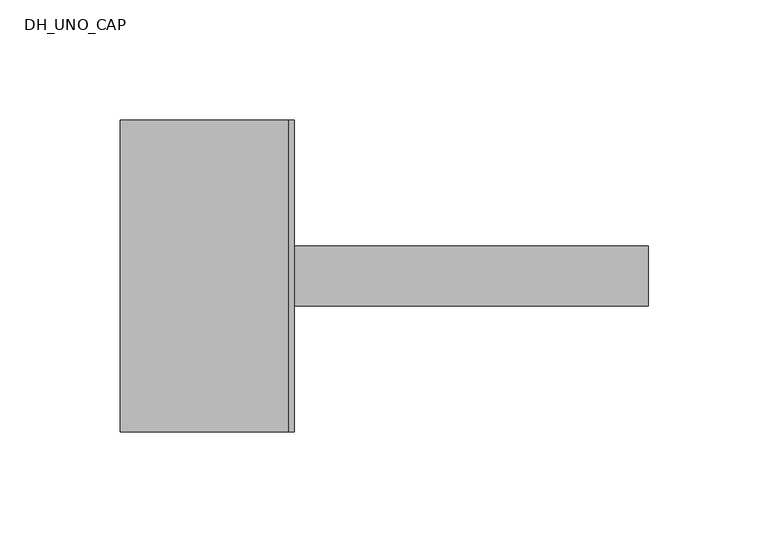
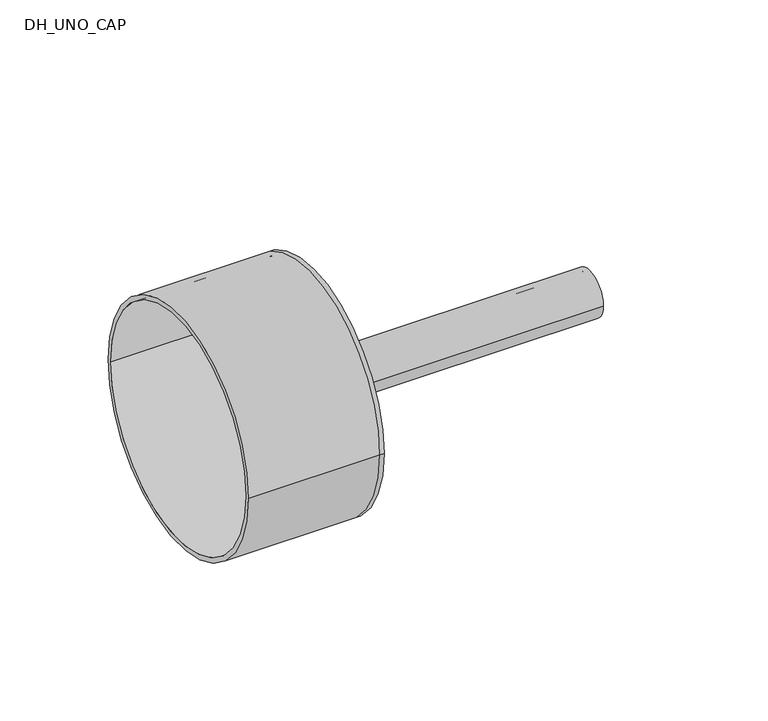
"""IFC4 building model written with IfcOpenShell, lengths in millimetres: pipe fitting geometry, DH_UNO_CAP : RAUVIPEX UNO + 11 Heating - Solid Cap."""

import ifcopenshell
import ifcopenshell.guid

model = None  # the IFC model being written
_history = None  # IfcOwnerHistory: only IFC2X3 demands one
_inside = {}  # id of a spatial element -> (the spatial element, [elements in it])
_under = {}  # id of a project, library or spatial element -> (it, [spatial elements below it])
_declared = {}  # id of a project -> (the project, [libraries it declares])
_typed = {}  # id of a type object -> (the type object, [elements of that type])
_made_of = {}  # id of a material, layer set ... -> (it, [elements and type objects made of it])


def new_model(schema):
    """Start an empty IFC model of exactly this schema.

    Asked for "IFC4X3", IfcOpenShell would pick the latest addendum, in which some entities
    have other attributes; the version numbers below select the first issue.
    IFC2X3 requires an IfcOwnerHistory on every rooted entity: one is made here for all.
    """
    global model, _history
    if schema == "IFC4X3":
        model = ifcopenshell.file(schema_version=(4, 3, 0, 0))
    else:
        model = ifcopenshell.file(schema=schema)
    _inside.clear()
    _under.clear()
    _declared.clear()
    _typed.clear()
    _made_of.clear()
    _history = None
    if model.schema == "IFC2X3":
        org = make("IfcOrganization", Name="unknown")
        user = make(
            "IfcPersonAndOrganization",
            ThePerson=make("IfcPerson", FamilyName="unknown"),
            TheOrganization=org,
        )
        app = make(
            "IfcApplication",
            ApplicationDeveloper=org,
            Version="unknown",
            ApplicationFullName="unknown",
            ApplicationIdentifier="unknown",
        )
        _history = make(
            "IfcOwnerHistory",
            OwningUser=user,
            OwningApplication=app,
            ChangeAction="ADDED",
            CreationDate=0,
        )
    return model


def make(cls, **values):
    """One entity of the class cls with the attributes given. An attribute that is None is left unset."""
    return model.create_entity(
        cls, **{name: value for name, value in values.items() if value is not None}
    )


def rooted(cls, **values):
    """An entity with a GlobalId (a new one), such as an element, a storey or a relation."""
    return make(cls, GlobalId=ifcopenshell.guid.new(), OwnerHistory=_history, **values)


def si_unit(unit_type, name, prefix=None):
    """IfcSIUnit, for example si_unit("LENGTHUNIT", "METRE", prefix="MILLI")."""
    return make("IfcSIUnit", UnitType=unit_type, Prefix=prefix, Name=name)


def assignment(units):
    """IfcUnitAssignment: the units of a project."""
    return None if units is None else make("IfcUnitAssignment", Units=units)


def point(xyz):
    """IfcCartesianPoint."""
    return None if xyz is None else make("IfcCartesianPoint", Coordinates=xyz)


def direction(xyz):
    """IfcDirection."""
    return None if xyz is None else make("IfcDirection", DirectionRatios=xyz)


def frame(location, z_axis=None, x_axis=None):
    """IfcAxis2Placement3D, a coordinate frame: its origin and axes. An axis left out is left unset."""
    return make(
        "IfcAxis2Placement3D",
        Location=point(location),
        Axis=direction(z_axis),
        RefDirection=direction(x_axis),
    )


def frame_2d(location, x_axis=None):
    """IfcAxis2Placement2D, a coordinate frame in the plane: its origin and x axis."""
    return make(
        "IfcAxis2Placement2D", Location=point(location), RefDirection=direction(x_axis)
    )


def origin():
    """The frame at (0, 0, 0) with its axes left unset."""
    return frame((0.0, 0.0, 0.0))


def origin_2d():
    """The frame at (0, 0) in the plane with its x axis left unset."""
    return frame_2d((0.0, 0.0))


def place(relative_to, where):
    """IfcLocalPlacement: puts the frame where relative to a parent placement (None: the world)."""
    return make(
        "IfcLocalPlacement", PlacementRelTo=relative_to, RelativePlacement=where
    )


def context(
    kind, dimensions, precision=None, world=None, true_north=None, identifier=None
):
    """IfcGeometricRepresentationContext, for example the 3D "Model" context."""
    return make(
        "IfcGeometricRepresentationContext",
        ContextIdentifier=identifier,
        ContextType=kind,
        CoordinateSpaceDimension=dimensions,
        Precision=precision,
        WorldCoordinateSystem=world,
        TrueNorth=true_north,
    )


def project(units=None, contexts=None):
    """IfcProject with its units and contexts."""
    return rooted(
        "IfcProject",
        Name="project",
        RepresentationContexts=contexts,
        UnitsInContext=assignment(units),
    )


def spatial(cls, under=None, at=None, **own):
    """A site, building, storey or space (cls), placed at a placement, below another one or the project."""
    s = rooted(cls, ObjectPlacement=at, **own)
    if under is not None:
        _under.setdefault(under.id(), (under, []))[1].append(s)
    return s


def polyline(points):
    """IfcPolyline through the points."""
    return make("IfcPolyline", Points=[point(p) for p in points])


def circle_curve(where, radius):
    """IfcCircle in the frame where."""
    return make("IfcCircle", Position=where, Radius=radius)


def trimmed(basis, trim1, trim2, sense, master):
    """IfcTrimmedCurve: the piece of a basis curve between two trims."""
    return make(
        "IfcTrimmedCurve",
        BasisCurve=basis,
        Trim1=trim1,
        Trim2=trim2,
        SenseAgreement=sense,
        MasterRepresentation=master,
    )


def segment(curve, same_sense, transition):
    """IfcCompositeCurveSegment."""
    return make(
        "IfcCompositeCurveSegment",
        Transition=transition,
        SameSense=same_sense,
        ParentCurve=curve,
    )


def composite_curve(segments, self_intersect=None):
    """IfcCompositeCurve: segments joined end to end."""
    return make("IfcCompositeCurve", Segments=segments, SelfIntersect=self_intersect)


def outline(outer, holes=None, kind="AREA"):
    """IfcArbitraryClosedProfileDef: a profile drawn as a closed curve; with holes, ...WithVoids."""
    if holes is None:
        return make("IfcArbitraryClosedProfileDef", ProfileType=kind, OuterCurve=outer)
    return make(
        "IfcArbitraryProfileDefWithVoids",
        ProfileType=kind,
        OuterCurve=outer,
        InnerCurves=holes,
    )


def extrude(swept, where, along, depth):
    """IfcExtrudedAreaSolid: the profile swept, set in the frame where, extruded along a direction by depth."""
    return make(
        "IfcExtrudedAreaSolid",
        SweptArea=swept,
        Position=where,
        ExtrudedDirection=direction(along),
        Depth=depth,
    )


def shape(context_of_items, identifier, shape_type, items):
    """IfcShapeRepresentation: the items that make up one representation, for example the "Body"."""
    return make(
        "IfcShapeRepresentation",
        ContextOfItems=context_of_items,
        RepresentationIdentifier=identifier,
        RepresentationType=shape_type,
        Items=items,
    )


def source(mapping_origin, context_of_items, identifier, shape_type, items):
    """IfcRepresentationMap: a shape defined once, which mapped items show again and again."""
    return make(
        "IfcRepresentationMap",
        MappingOrigin=mapping_origin,
        MappedRepresentation=shape(context_of_items, identifier, shape_type, items),
    )


def transform(
    local_origin,
    x_axis=None,
    y_axis=None,
    z_axis=None,
    scale=None,
    scale2=None,
    scale3=None,
    uniform=True,
):
    """IfcCartesianTransformationOperator3D, or its non-uniform kind. x_axis, y_axis, z_axis: its Axis1, 2, 3."""
    if uniform:
        return make(
            "IfcCartesianTransformationOperator3D",
            Axis1=direction(x_axis),
            Axis2=direction(y_axis),
            LocalOrigin=point(local_origin),
            Scale=scale,
            Axis3=direction(z_axis),
        )
    return make(
        "IfcCartesianTransformationOperator3DnonUniform",
        Axis1=direction(x_axis),
        Axis2=direction(y_axis),
        LocalOrigin=point(local_origin),
        Scale=scale,
        Axis3=direction(z_axis),
        Scale2=scale2,
        Scale3=scale3,
    )


def mapped(mapping_source, mapping_target):
    """IfcMappedItem: shows the shape of a source again, moved by a transform."""
    return make(
        "IfcMappedItem", MappingSource=mapping_source, MappingTarget=mapping_target
    )


def made_of(thing, what):
    """Note that an element or type object is made of a material, layer set ...; save() writes the relation."""
    if what is not None:
        _made_of.setdefault(what.id(), (what, []))[1].append(thing)
    return thing


def element(
    cls,
    number,
    at=None,
    inside=None,
    cuts=None,
    type_object=None,
    material=None,
    context=None,
    identifier="Body",
    shape_type=None,
    held_by="IfcProductDefinitionShape",
    body=None,
    shapes=None,
    **own,
):
    """One element of the class cls, such as IfcWall. Its Tag is "e" and its number.

    at: its placement. inside: the storey or other place that contains it. cuts: it is an
    opening in that element (IfcRelVoidsElement). A single representation is given by context,
    identifier, shape_type and body (its items); several are given by shapes. held_by: the class
    of the entity that holds the representations. save() writes the other relations.
    """
    e = rooted(cls, Tag="e%d" % number, ObjectPlacement=at, **own)
    if body is not None:
        shapes = [shape(context, identifier, shape_type, body)]
    if shapes is not None:
        e.Representation = make(held_by, Representations=shapes)
    if inside is not None:
        _inside.setdefault(inside.id(), (inside, []))[1].append(e)
    if cuts is not None:
        rooted(
            "IfcRelVoidsElement", RelatingBuildingElement=cuts, RelatedOpeningElement=e
        )
    if type_object is not None:
        _typed.setdefault(type_object.id(), (type_object, []))[1].append(e)
    return made_of(e, material)


def aggregate(whole, parts):
    """IfcRelAggregates: a whole, such as a stair, and the parts it consists of."""
    return rooted("IfcRelAggregates", RelatingObject=whole, RelatedObjects=parts)


def save(model, path):
    """Write the relations noted so far, then the file.

    IfcRelAggregates (storeys below a building ...), IfcRelContainedInSpatialStructure (elements
    in a storey), IfcRelDefinesByType, IfcRelAssociatesMaterial and IfcRelDeclares: one each for
    every whole, place, type object, material and project.
    """
    for whole, parts in _under.values():
        aggregate(whole, parts)
    for where, things in _inside.values():
        rooted(
            "IfcRelContainedInSpatialStructure",
            RelatedElements=things,
            RelatingStructure=where,
        )
    for kind, things in _typed.values():
        rooted("IfcRelDefinesByType", RelatedObjects=things, RelatingType=kind)
    for what, things in _made_of.values():
        rooted("IfcRelAssociatesMaterial", RelatedObjects=things, RelatingMaterial=what)
    for by, libraries in _declared.values():
        rooted("IfcRelDeclares", RelatingContext=by, RelatedDefinitions=libraries)
    model.write(path)


def plane_surface(at):
    """IfcPlane: the flat surface through the origin of the frame at, square to its z axis."""
    return make("IfcPlane", Position=at)


def cylinder_surface(at, radius):
    """IfcCylindricalSurface: all points at the distance radius from the z axis of the frame at."""
    return make("IfcCylindricalSurface", Position=at, Radius=radius)


def revolved_surface(curve, axis_point, axis_direction):
    """IfcSurfaceOfRevolution: the curve turned about the line through axis_point along axis_direction."""
    return make(
        "IfcSurfaceOfRevolution",
        SweptCurve=make("IfcArbitraryOpenProfileDef", ProfileType="CURVE", Curve=curve),
        AxisPosition=make("IfcAxis1Placement", Location=point(axis_point), Axis=direction(axis_direction)),
    )


def advanced_brep(points, edges, surfaces, faces):
    """IfcAdvancedBrep: a solid bounded by faces that lie on surfaces and meet in shared edges.

    An edge is (start, end): straight between two places in points (the first is 0);
    or (start, end, curve); or (start, end, curve, False) where it runs against its curve.
    A face is (place in surfaces, loops), or (place, loops, False) where it looks against
    its surface's normal. A loop lists edges by number (the first is 1), with a minus sign
    where the edge is run from its end to its start. The first loop is the outer one.
    """
    corners = [point(p) for p in points]
    vertices = [make("IfcVertexPoint", VertexGeometry=c) for c in corners]
    made = []
    for start, end, *more in edges:
        made.append(
            make(
                "IfcEdgeCurve",
                EdgeStart=vertices[start],
                EdgeEnd=vertices[end],
                EdgeGeometry=more[0] if more else make("IfcPolyline", Points=[corners[start], corners[end]]),
                SameSense=more[1] if len(more) > 1 else True,
            )
        )
    hull = []
    for where, loops, *sense in faces:
        bounds = []
        for j, loop in enumerate(loops):
            ring = [make("IfcOrientedEdge", EdgeElement=made[abs(k) - 1], Orientation=k > 0) for k in loop]
            bounds.append(
                make(
                    "IfcFaceOuterBound" if j == 0 else "IfcFaceBound",
                    Bound=make("IfcEdgeLoop", EdgeList=ring),
                    Orientation=True,
                )
            )
        hull.append(make("IfcAdvancedFace", Bounds=bounds, FaceSurface=surfaces[where], SameSense=sense[0] if sense else True))
    return make("IfcAdvancedBrep", Outer=make("IfcClosedShell", CfsFaces=hull))


def dh_uno_cap_d248aa2c(model_context):
    return source(origin(), model_context, "Body", "SolidModel", [
        extrude(outline(composite_curve([segment(trimmed(circle_curve(origin_2d(), 12.5), [point((-12.5, 0.0))], [point((12.5, 0.0))], False, "CARTESIAN"), True, "CONTINUOUS"), segment(trimmed(circle_curve(origin_2d(), 12.5), [point((12.5, 0.0))], [point((-12.5, 0.0))], False, "CARTESIAN"), True, "CONTINUOUS")], self_intersect=False), holes=[composite_curve([segment(trimmed(circle_curve(origin_2d(), 10.2), [point((-10.2, 0.0))], [point((10.2, 0.0))], True, "CARTESIAN"), True, "CONTINUOUS"), segment(trimmed(circle_curve(origin_2d(), 10.2), [point((10.2, 0.0))], [point((-10.2, 0.0))], True, "CARTESIAN"), True, "CONTINUOUS")], self_intersect=False)]), frame((0.0, 0.0, 0.0), z_axis=(1.0, 0.0, 0.0), x_axis=(0.0, 1.0, 0.0)), (0.0, 0.0, 1.0), 150.0),
        advanced_brep(
        [(-70.0, -65.0, 0.0), (-70.0, 65.0, 0.0), (-70.0, -62.5, 0.0), (-70.0, 62.5, 0.0), (0.0, -62.5, 0.0), (0.0, 62.5, 0.0), (0.0, -65.0, 0.0), (0.0, 65.0, 0.0), (0.0, 12.5, 0.0), (0.0, -12.5, 0.0), (2.5, -65.0, 0.0), (2.5, 65.0, 0.0), (2.5, -12.5, 0.0), (2.5, 12.5, 0.0)],
        [
            (0, 1, circle_curve(frame((-70.0, 0.0, 0.0), z_axis=(-1.0, 0.0, 0.0), x_axis=(0.0, 1.0, 0.0)), 65.0)),
            (1, 0, circle_curve(frame((-70.0, 0.0, 0.0), z_axis=(-1.0, 0.0, 0.0), x_axis=(0.0, 1.0, 0.0)), 65.0)),
            (2, 3, circle_curve(frame((-70.0, 0.0, 0.0), z_axis=(1.0, 0.0, 0.0), x_axis=(0.0, 1.0, 0.0)), 62.5)),
            (3, 2, circle_curve(frame((-70.0, 0.0, 0.0), z_axis=(1.0, 0.0, 0.0), x_axis=(0.0, 1.0, 0.0)), 62.5)),
            (2, 4),
            (4, 5, circle_curve(frame((0.0, 0.0, 0.0), z_axis=(1.0, 0.0, 0.0), x_axis=(0.0, 1.0, 0.0)), 62.5)),
            (5, 3),
            (5, 4, circle_curve(frame((0.0, 0.0, 0.0), z_axis=(1.0, 0.0, 0.0), x_axis=(0.0, 1.0, 0.0)), 62.5)),
            (0, 6),
            (6, 7, circle_curve(frame((0.0, 0.0, 0.0), z_axis=(-1.0, 0.0, 0.0), x_axis=(0.0, 1.0, 0.0)), 65.0)),
            (7, 1),
            (7, 6, circle_curve(frame((0.0, 0.0, 0.0), z_axis=(-1.0, 0.0, 0.0), x_axis=(0.0, 1.0, 0.0)), 65.0)),
            (8, 9, circle_curve(frame((0.0, 0.0, 0.0), z_axis=(1.0, 0.0, 0.0), x_axis=(0.0, 1.0, 0.0)), 12.5)),
            (9, 8, circle_curve(frame((0.0, 0.0, 0.0), z_axis=(1.0, 0.0, 0.0), x_axis=(0.0, 1.0, 0.0)), 12.5)),
            (10, 11, circle_curve(frame((2.5, 0.0, 0.0), z_axis=(1.0, 0.0, 0.0), x_axis=(0.0, 1.0, 0.0)), 65.0)),
            (11, 10, circle_curve(frame((2.5, 0.0, 0.0), z_axis=(1.0, 0.0, 0.0), x_axis=(0.0, 1.0, 0.0)), 65.0)),
            (12, 13, circle_curve(frame((2.5, 0.0, 0.0), z_axis=(-1.0, 0.0, 0.0), x_axis=(0.0, 1.0, 0.0)), 12.5)),
            (13, 12, circle_curve(frame((2.5, 0.0, 0.0), z_axis=(-1.0, 0.0, 0.0), x_axis=(0.0, 1.0, 0.0)), 12.5)),
            (11, 7),
            (6, 10),
            (8, 13),
            (12, 9),
        ],
        [
            plane_surface(frame((-70.0, 0.0, 0.0), z_axis=(-1.0, 0.0, 0.0), x_axis=(0.0, 0.0, 1.0))),
            revolved_surface(polyline([(0.0, 62.5, 0.0), (-70.0, 62.5, 0.0)]), (-70.0, 0.0, 0.0), (1.0, 0.0, 0.0)),
            cylinder_surface(frame((-70.0, 0.0, 0.0), z_axis=(-1.0, 0.0, 0.0), x_axis=(0.0, 1.0, 0.0)), 65.0),
            plane_surface(frame((0.0, 0.0, 0.0), z_axis=(-1.0, 0.0, 0.0), x_axis=(0.0, 0.0, 1.0))),
            plane_surface(frame((2.5, 0.0, 0.0), z_axis=(1.0, 0.0, 0.0), x_axis=(0.0, 0.0, 1.0))),
            cylinder_surface(frame((0.0, 0.0, 0.0), z_axis=(-1.0, 0.0, 0.0), x_axis=(0.0, 1.0, 0.0)), 65.0),
            revolved_surface(polyline([(0.0, 12.5, 0.0), (2.5, 12.5, 0.0)]), (0.0, 0.0, 0.0), (-1.0, 0.0, 0.0)),
        ],
        [
            (0, [[1, 2], [3, 4]]),
            (1, [[-3, 5, 6, 7]]),
            (1, [[-4, -7, 8, -5]]),
            (2, [[-1, 9, 10, 11]]),
            (2, [[-2, -11, 12, -9]]),
            (3, [[-6, -8], [13, 14]]),
            (4, [[15, 16], [17, 18]]),
            (5, [[-16, 19, -10, 20]]),
            (5, [[-15, -20, -12, -19]]),
            (6, [[21, -17, 22, -13]]),
            (6, [[-21, -14, -22, -18]]),
        ],
    ),
    ])


if __name__ == "__main__":
    model = new_model("IFC4")
    model_context = context("Model", 3, world=origin())
    ifc_project = project(units=[si_unit("LENGTHUNIT", "METRE", prefix="MILLI")], contexts=[model_context])
    site = spatial("IfcSite", under=ifc_project)
    building = spatial("IfcBuilding", under=site)
    placement = place(None, origin())
    dh_uno_cap_shape = dh_uno_cap_d248aa2c(model_context)
    element("IfcPipeFitting", 1, ObjectType="DH_UNO_CAP : RAUVIPEX UNO + 11 Heating - Solid Cap", at=placement, inside=building, context=model_context, shape_type="MappedRepresentation", body=[
        mapped(dh_uno_cap_shape, transform((0.0, 0.0, 0.0), x_axis=(1.0, 0.0, 0.0), y_axis=(0.0, 1.0, 0.0), z_axis=(0.0, 0.0, 1.0))),
    ])
    save(model, "model.ifc")
